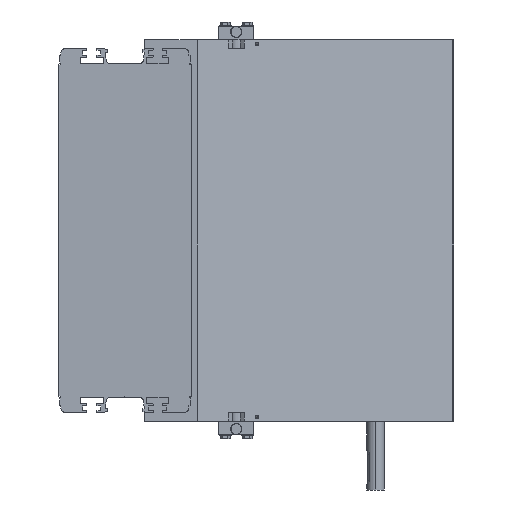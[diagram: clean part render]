
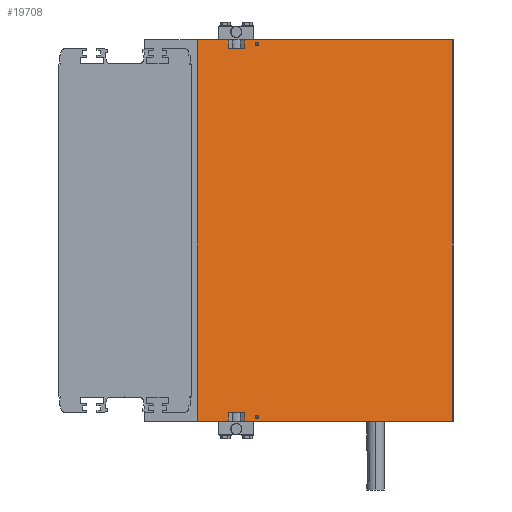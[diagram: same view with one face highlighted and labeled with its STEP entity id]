
A CAD part, left-side view. The second image highlights one B-rep face of the part: STEP entity #19708.
In plain terms, the highlighted planar face has unit normal (-0.966, -0.259, 0).
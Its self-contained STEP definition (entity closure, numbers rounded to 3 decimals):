
#469 = AXIS2_PLACEMENT_3D ( 'NONE', #7450, #3609, #21079 ) ;
#575 = CARTESIAN_POINT ( 'NONE',  ( -190., -83., 219. ) ) ;
#839 = CARTESIAN_POINT ( 'NONE',  ( -180.442, -118.67, 219. ) ) ;
#878 = DIRECTION ( 'NONE',  ( 0., 0., 1. ) ) ;
#979 = DIRECTION ( 'NONE',  ( 0., 0., -1. ) ) ;
#986 = CARTESIAN_POINT ( 'NONE',  ( -190., -83., 219. ) ) ;
#1200 = CARTESIAN_POINT ( 'NONE',  ( -175.442, -137.33, -219. ) ) ;
#1447 = ORIENTED_EDGE ( 'NONE', *, *, #4865, .T. ) ;
#1926 = ORIENTED_EDGE ( 'NONE', *, *, #3874, .F. ) ;
#2318 = DIRECTION ( 'NONE',  ( 0.259, -0.966, 0. ) ) ;
#2706 = DIRECTION ( 'NONE',  ( 0., 0., 1. ) ) ;
#2924 = VERTEX_POINT ( 'NONE', #24271 ) ;
#3231 = CARTESIAN_POINT ( 'NONE',  ( -175.442, -137.33, 209. ) ) ;
#3412 = VERTEX_POINT ( 'NONE', #14573 ) ;
#3599 = DIRECTION ( 'NONE',  ( 0., 0., 1. ) ) ;
#3609 = DIRECTION ( 'NONE',  ( -0.966, -0.259, 0. ) ) ;
#3874 = EDGE_CURVE ( 'NONE', #8942, #19279, #24135, .T. ) ;
#3975 = VERTEX_POINT ( 'NONE', #3231 ) ;
#4460 = CARTESIAN_POINT ( 'NONE',  ( -175.442, -137.33, -209. ) ) ;
#4801 = ORIENTED_EDGE ( 'NONE', *, *, #6151, .F. ) ;
#4826 = ORIENTED_EDGE ( 'NONE', *, *, #5144, .F. ) ;
#4865 = EDGE_CURVE ( 'NONE', #8942, #5311, #8363, .T. ) ;
#4904 = CARTESIAN_POINT ( 'NONE',  ( -171.08, -153.609, -214. ) ) ;
#5144 = EDGE_CURVE ( 'NONE', #15161, #25142, #18727, .T. ) ;
#5311 = VERTEX_POINT ( 'NONE', #19950 ) ;
#5445 = VERTEX_POINT ( 'NONE', #4904 ) ;
#5642 = EDGE_CURVE ( 'NONE', #2924, #3412, #8014, .T. ) ;
#5719 = CARTESIAN_POINT ( 'NONE',  ( -190., -83., 219. ) ) ;
#5906 = ORIENTED_EDGE ( 'NONE', *, *, #10222, .F. ) ;
#6043 = DIRECTION ( 'NONE',  ( -0.259, 0.966, 0. ) ) ;
#6151 = EDGE_CURVE ( 'NONE', #20043, #19585, #23524, .T. ) ;
#6225 = CARTESIAN_POINT ( 'NONE',  ( -190., -83., -219. ) ) ;
#6233 = ORIENTED_EDGE ( 'NONE', *, *, #16430, .T. ) ;
#6380 = CARTESIAN_POINT ( 'NONE',  ( -171.624, -151.581, -214. ) ) ;
#6401 = VECTOR ( 'NONE', #8960, 1000. ) ;
#6549 = CARTESIAN_POINT ( 'NONE',  ( -180.442, -118.67, -209. ) ) ;
#6676 = ORIENTED_EDGE ( 'NONE', *, *, #7519, .T. ) ;
#6727 = DIRECTION ( 'NONE',  ( 0., 0., 1. ) ) ;
#6811 = CIRCLE ( 'NONE', #13132, 2.1 ) ;
#7087 = LINE ( 'NONE', #14263, #18399 ) ;
#7213 = CARTESIAN_POINT ( 'NONE',  ( -190., -83., -219. ) ) ;
#7289 = LINE ( 'NONE', #18734, #6401 ) ;
#7450 = CARTESIAN_POINT ( 'NONE',  ( -171.624, -151.581, 214. ) ) ;
#7519 = EDGE_CURVE ( 'NONE', #24263, #21996, #20930, .T. ) ;
#7559 = AXIS2_PLACEMENT_3D ( 'NONE', #6225, #19747, #6043 ) ;
#7932 = DIRECTION ( 'NONE',  ( -0.259, 0.966, 0. ) ) ;
#8014 = LINE ( 'NONE', #986, #11981 ) ;
#8249 = CARTESIAN_POINT ( 'NONE',  ( -175.442, -137.33, 209. ) ) ;
#8329 = DIRECTION ( 'NONE',  ( 0.259, -0.966, 0. ) ) ;
#8363 = LINE ( 'NONE', #23733, #14821 ) ;
#8507 = LINE ( 'NONE', #575, #23777 ) ;
#8578 = EDGE_CURVE ( 'NONE', #5445, #18170, #6811, .T. ) ;
#8691 = CARTESIAN_POINT ( 'NONE',  ( -172.167, -149.552, -214. ) ) ;
#8799 = VERTEX_POINT ( 'NONE', #1200 ) ;
#8812 = DIRECTION ( 'NONE',  ( -0.259, 0.966, 0. ) ) ;
#8850 = EDGE_LOOP ( 'NONE', ( #25195, #5906 ) ) ;
#8942 = VERTEX_POINT ( 'NONE', #17095 ) ;
#8960 = DIRECTION ( 'NONE',  ( -0.259, 0.966, 0. ) ) ;
#9598 = LINE ( 'NONE', #22161, #14219 ) ;
#9650 = ORIENTED_EDGE ( 'NONE', *, *, #11881, .F. ) ;
#9826 = ORIENTED_EDGE ( 'NONE', *, *, #19376, .F. ) ;
#10075 = ORIENTED_EDGE ( 'NONE', *, *, #5642, .T. ) ;
#10222 = EDGE_CURVE ( 'NONE', #18170, #5445, #22805, .T. ) ;
#10578 = CARTESIAN_POINT ( 'NONE',  ( -180.442, -118.67, -219. ) ) ;
#10893 = CARTESIAN_POINT ( 'NONE',  ( -180.442, -118.67, 209. ) ) ;
#10945 = EDGE_CURVE ( 'NONE', #23313, #2924, #9598, .T. ) ;
#10957 = FACE_OUTER_BOUND ( 'NONE', #23021, .T. ) ;
#11566 = CARTESIAN_POINT ( 'NONE',  ( -171.624, -151.581, 214. ) ) ;
#11725 = DIRECTION ( 'NONE',  ( -0.966, -0.259, 0. ) ) ;
#11881 = EDGE_CURVE ( 'NONE', #24263, #3975, #7087, .T. ) ;
#11981 = VECTOR ( 'NONE', #22416, 1000. ) ;
#12023 = DIRECTION ( 'NONE',  ( 0., 0., -1. ) ) ;
#12189 = DIRECTION ( 'NONE',  ( -0.966, -0.259, 0. ) ) ;
#12235 = DIRECTION ( 'NONE',  ( 0.259, -0.966, 0. ) ) ;
#12270 = VECTOR ( 'NONE', #2706, 1000. ) ;
#13111 = FACE_BOUND ( 'NONE', #16905, .T. ) ;
#13132 = AXIS2_PLACEMENT_3D ( 'NONE', #6380, #15854, #8329 ) ;
#13169 = CARTESIAN_POINT ( 'NONE',  ( -180.442, -118.67, 209. ) ) ;
#13349 = VECTOR ( 'NONE', #3599, 1000. ) ;
#13892 = VECTOR ( 'NONE', #878, 1000. ) ;
#14219 = VECTOR ( 'NONE', #6727, 1000. ) ;
#14263 = CARTESIAN_POINT ( 'NONE',  ( -198.022, -53.06, 209. ) ) ;
#14573 = CARTESIAN_POINT ( 'NONE',  ( -175.442, -137.33, 219. ) ) ;
#14760 = CARTESIAN_POINT ( 'NONE',  ( -171.08, -153.609, 214. ) ) ;
#14821 = VECTOR ( 'NONE', #12235, 1000. ) ;
#14909 = ORIENTED_EDGE ( 'NONE', *, *, #23958, .T. ) ;
#14957 = EDGE_CURVE ( 'NONE', #3975, #3412, #20580, .T. ) ;
#15161 = VERTEX_POINT ( 'NONE', #14760 ) ;
#15333 = VECTOR ( 'NONE', #12023, 1000. ) ;
#15500 = ORIENTED_EDGE ( 'NONE', *, *, #24479, .F. ) ;
#15536 = FACE_BOUND ( 'NONE', #8850, .T. ) ;
#15793 = AXIS2_PLACEMENT_3D ( 'NONE', #20000, #12189, #23869 ) ;
#15854 = DIRECTION ( 'NONE',  ( -0.966, -0.259, 0. ) ) ;
#16430 = EDGE_CURVE ( 'NONE', #5311, #8799, #17445, .T. ) ;
#16754 = ORIENTED_EDGE ( 'NONE', *, *, #22661, .F. ) ;
#16905 = EDGE_LOOP ( 'NONE', ( #4826, #15500 ) ) ;
#17095 = CARTESIAN_POINT ( 'NONE',  ( -180.442, -118.67, -209. ) ) ;
#17445 = LINE ( 'NONE', #4460, #15333 ) ;
#17725 = PLANE ( 'NONE',  #7559 ) ;
#18170 = VERTEX_POINT ( 'NONE', #8691 ) ;
#18399 = VECTOR ( 'NONE', #2318, 1000. ) ;
#18727 = CIRCLE ( 'NONE', #469, 2.1 ) ;
#18734 = CARTESIAN_POINT ( 'NONE',  ( -190., -83., -219. ) ) ;
#19003 = CIRCLE ( 'NONE', #20782, 2.1 ) ;
#19279 = VERTEX_POINT ( 'NONE', #10578 ) ;
#19376 = EDGE_CURVE ( 'NONE', #23313, #8799, #7289, .T. ) ;
#19492 = ORIENTED_EDGE ( 'NONE', *, *, #10945, .T. ) ;
#19568 = DIRECTION ( 'NONE',  ( 0.259, -0.966, 0. ) ) ;
#19585 = VERTEX_POINT ( 'NONE', #5719 ) ;
#19708 = ADVANCED_FACE ( 'NONE', ( #15536, #13111, #10957 ), #17725, .F. ) ;
#19747 = DIRECTION ( 'NONE',  ( 0.966, 0.259, 0. ) ) ;
#19950 = CARTESIAN_POINT ( 'NONE',  ( -175.442, -137.33, -209. ) ) ;
#20000 = CARTESIAN_POINT ( 'NONE',  ( -171.624, -151.581, -214. ) ) ;
#20043 = VERTEX_POINT ( 'NONE', #7213 ) ;
#20580 = LINE ( 'NONE', #8249, #13892 ) ;
#20731 = CARTESIAN_POINT ( 'NONE',  ( -190., -83., -219. ) ) ;
#20782 = AXIS2_PLACEMENT_3D ( 'NONE', #11566, #11725, #19568 ) ;
#20930 = LINE ( 'NONE', #13169, #13349 ) ;
#21079 = DIRECTION ( 'NONE',  ( 0.259, -0.966, 0. ) ) ;
#21996 = VERTEX_POINT ( 'NONE', #839 ) ;
#22037 = LINE ( 'NONE', #20731, #23863 ) ;
#22135 = CARTESIAN_POINT ( 'NONE',  ( -190., -83., -219. ) ) ;
#22161 = CARTESIAN_POINT ( 'NONE',  ( -111.473, -376.068, 219. ) ) ;
#22305 = VECTOR ( 'NONE', #979, 1000. ) ;
#22416 = DIRECTION ( 'NONE',  ( -0.259, 0.966, 0. ) ) ;
#22661 = EDGE_CURVE ( 'NONE', #19279, #20043, #22037, .T. ) ;
#22670 = CARTESIAN_POINT ( 'NONE',  ( -111.473, -376.068, -219. ) ) ;
#22791 = ORIENTED_EDGE ( 'NONE', *, *, #14957, .F. ) ;
#22805 = CIRCLE ( 'NONE', #15793, 2.1 ) ;
#23021 = EDGE_LOOP ( 'NONE', ( #16754, #1926, #1447, #6233, #9826, #19492, #10075, #22791, #9650, #6676, #14909, #4801 ) ) ;
#23313 = VERTEX_POINT ( 'NONE', #22670 ) ;
#23524 = LINE ( 'NONE', #22135, #12270 ) ;
#23733 = CARTESIAN_POINT ( 'NONE',  ( -198.022, -53.06, -209. ) ) ;
#23777 = VECTOR ( 'NONE', #7932, 1000. ) ;
#23863 = VECTOR ( 'NONE', #8812, 1000. ) ;
#23869 = DIRECTION ( 'NONE',  ( 0.259, -0.966, 0. ) ) ;
#23958 = EDGE_CURVE ( 'NONE', #21996, #19585, #8507, .T. ) ;
#24135 = LINE ( 'NONE', #6549, #22305 ) ;
#24263 = VERTEX_POINT ( 'NONE', #10893 ) ;
#24271 = CARTESIAN_POINT ( 'NONE',  ( -111.473, -376.068, 219. ) ) ;
#24369 = CARTESIAN_POINT ( 'NONE',  ( -172.167, -149.552, 214. ) ) ;
#24479 = EDGE_CURVE ( 'NONE', #25142, #15161, #19003, .T. ) ;
#25142 = VERTEX_POINT ( 'NONE', #24369 ) ;
#25195 = ORIENTED_EDGE ( 'NONE', *, *, #8578, .F. ) ;
